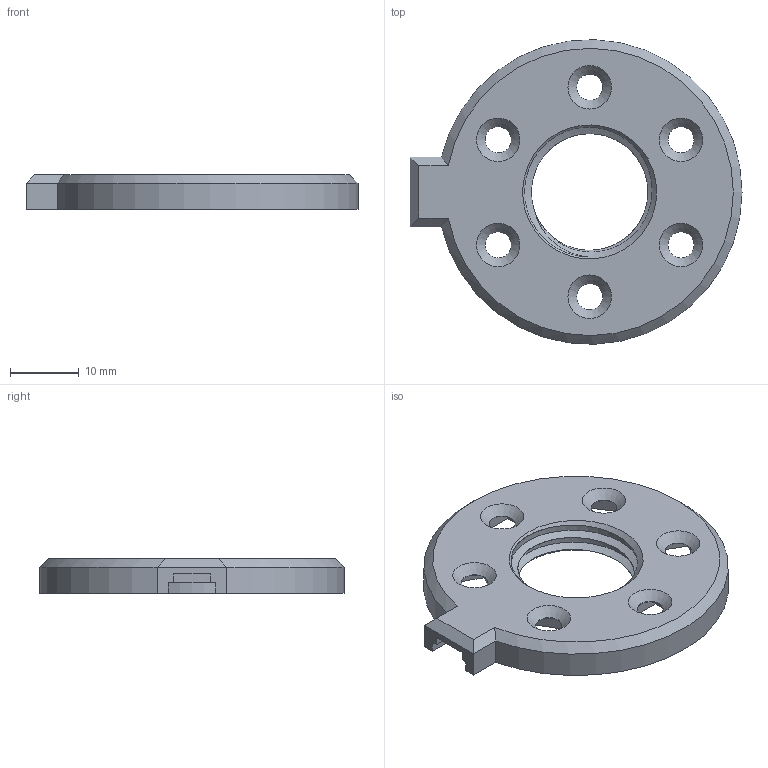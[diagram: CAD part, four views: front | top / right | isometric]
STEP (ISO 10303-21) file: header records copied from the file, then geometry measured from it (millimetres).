
FILE_DESCRIPTION(/* description */ ('Alibre Inc.'),/* implementation_level */ '2;1');
FILE_NAME(/* name */ 'export0',/* time_stamp */ '2017-07-24T14:13:01-05:00',/* author */ (''),/* organization */ (''),/* preprocessor_version */ 'ST-DEVELOPER v14',/* originating_system */ 'Alibre',/* authorisation */ '');
FILE_SCHEMA (('CONFIG_CONTROL_DESIGN'));
Length unit declared in the file: centimetre
Products named in the file (1): ID_1
Bounding box: 48.43 x 44.43 x 5.08 mm (x, y, z)
Volume: 4079 mm3; surface area: 4371.8 mm2
Topology: 1 solids, 1 shells, 77 faces, 195 edges, 129 vertices
Faces by surface type: plane 56, cylinder 11, cone 8, bspline 2
Full cylindrical faces by diameter (mm): 3.81 x6, 19.812 x1
Entity records: 2650 total; most frequent: CARTESIAN_POINT 846, ORIENTED_EDGE 346, DIRECTION 284, EDGE_CURVE 173, VECTOR 131, LINE 131, VERTEX_POINT 121, EDGE_LOOP 114
